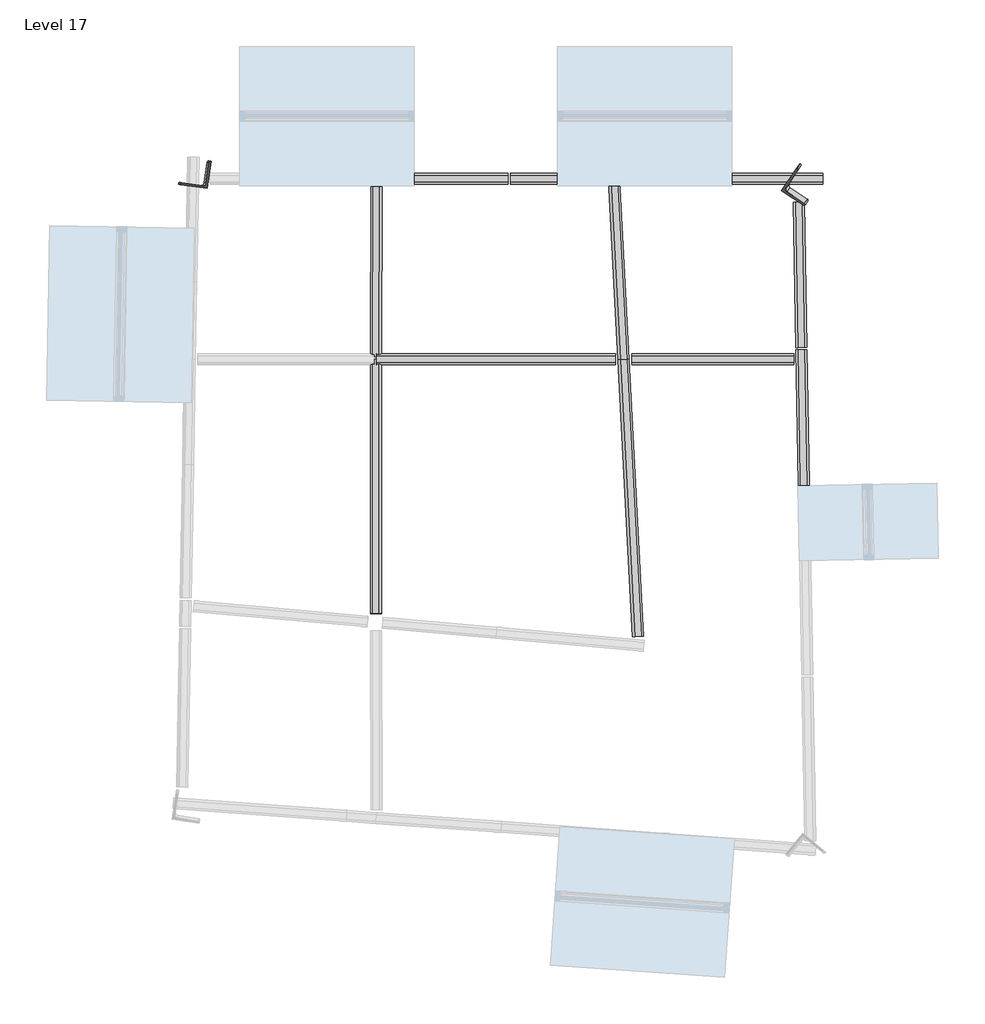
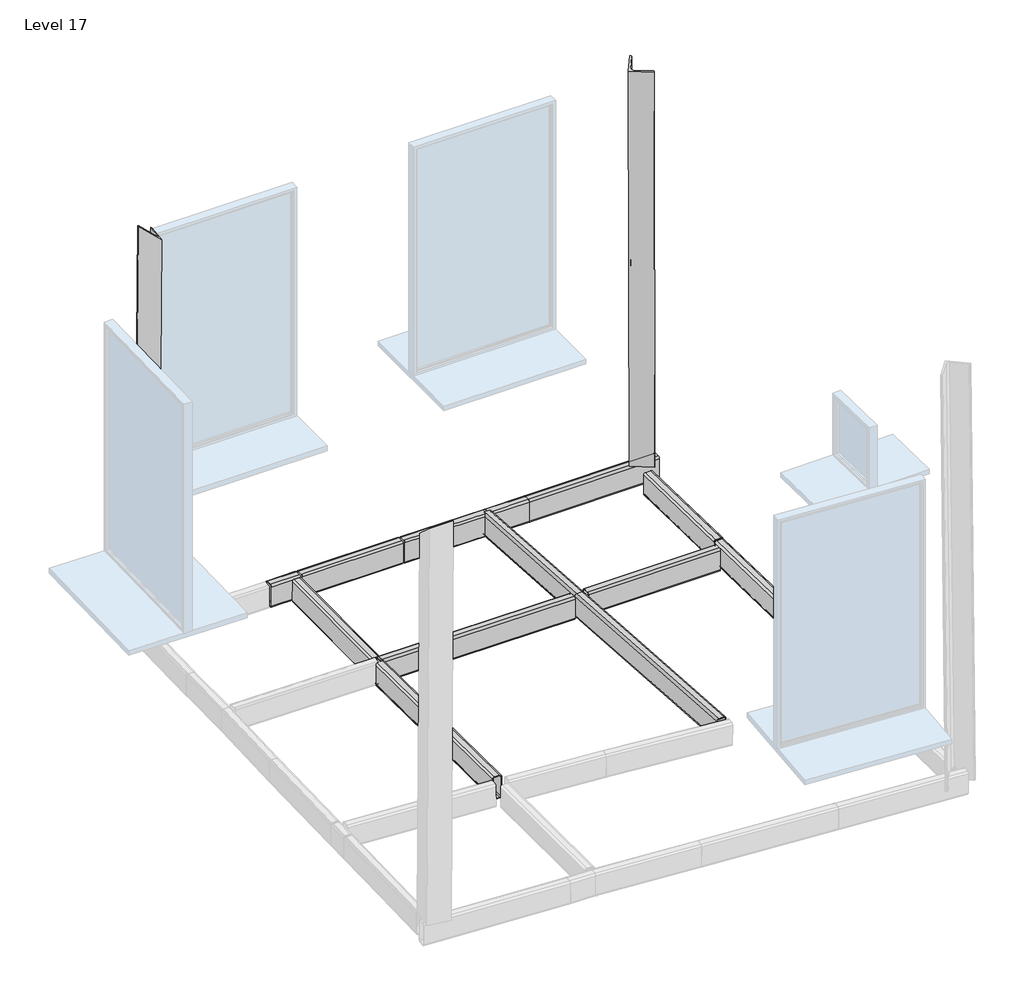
# One storey, part 3 of 3: 15 beams.
"""IFC4 building model written with IfcOpenShell, lengths in millimetres."""

from ifc_helpers import new_model, si_unit, point, frame, frame_2d, origin, place, context, project, spatial, polyline, circle_curve, ellipse_curve, trimmed, segment, composite_curve, outline, extrude, transform, mapped, element, save
from ifc_brep_helpers import plane_surface, cylinder_surface, revolved_surface, advanced_brep
from components import l120x10_4fa2ce1e, rectangular_and_square_hollow_sections_821853a5, rectangular_and_square_hollow_sections_1ebc4c57, rectangular_and_square_hollow_sections_cabbe5fd, rectangular_and_square_hollow_sections_653a560d, rectangular_and_square_hollow_sections_24a7b1d7, rectangular_and_square_hollow_sections_428dbf9e, rectangular_and_square_hollow_sections_7b8385d6, rectangular_and_square_hollow_sections_eae4e9b7, rectangular_and_square_hollow_sections_8e62f9b5, rectangular_and_square_hollow_sections_82249186

model = new_model("IFC4")

# Units and contexts
model_context = context("Model", 3, world=origin())
ifc_project = project(units=[si_unit("LENGTHUNIT", "METRE", prefix="MILLI")], contexts=[model_context])

# Site, building, storey
site = spatial("IfcSite", under=ifc_project)
building = spatial("IfcBuilding", under=site)
storey = spatial("IfcBuildingStorey", under=building, Name="Level 17", Elevation=2886.4344134)

# Beams
placement = place(None, origin())
element("IfcBeam", 1, ObjectType="L ali uguali : L120x10", at=placement, inside=storey, context=model_context, shape_type="AdvancedBrep", body=[
    advanced_brep(
    [(-719.2756179, 2153.9921318, 2953.5828211), (-867.7419634, 2175.3574195, 2954.7092037), (-867.1722064, 2179.3166337, 2954.7092037), (-858.1144871, 2186.0955801, 2954.6491299), (-745.2800646, 2169.8579613, 2953.7930792), (-727.1646261, 2183.415854, 2953.6729317), (-710.9265495, 2296.253458, 2953.6729317), (-701.8688303, 2303.0324043, 2953.612858), (-697.9097278, 2302.4626633, 2953.5828211), (-677.9048867, 2299.5838345, 5644.9888402), (-699.1466926, 2151.0954465, 5661.6828517), (-706.9802581, 2180.5111901, 5669.2320891), (-690.8364856, 2293.3623651, 5656.5446403), (-724.9776542, 2166.9363104, 5685.2333875), (-837.0653291, 2183.0664672, 5786.5551899), (-846.6304753, 2172.319337, 5795.0010128), (-681.8377875, 2300.1498049, 5648.5439911), (-846.0640271, 2176.2790273, 5794.5558391)],
    [
        (0, 1),
        (1, 2),
        (2, 3, circle_curve(frame((-859.2540013, 2178.1771517, 2954.6491299), z_axis=(-0.0074326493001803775, 0.0010696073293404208, -0.9999718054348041), x_axis=(0.14243926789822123, 0.9898035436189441, 0.0)), 8.0)),
        (3, 4),
        (4, 5, circle_curve(frame((-743.0010363, 2185.694818, 2953.7930792), z_axis=(0.0074326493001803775, -0.0010696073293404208, 0.9999718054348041), x_axis=(0.14243926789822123, 0.9898035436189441, 0.0)), 16.0)),
        (5, 6),
        (6, 7, circle_curve(frame((-703.0083445, 2295.113976, 2953.612858), z_axis=(-0.0074326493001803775, 0.0010696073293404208, -0.9999718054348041), x_axis=(0.14243926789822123, 0.9898035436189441, 0.0)), 8.0)),
        (7, 8),
        (8, 0),
        (9, 10),
        (10, 0),
        (8, 9),
        (11, 12),
        (12, 6),
        (5, 11),
        (13, 11, ellipse_curve(frame((-722.7118616, 2182.7750718, 5683.4526929), z_axis=(0.6695582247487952, -0.012288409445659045, 0.7426579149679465), x_axis=(0.7425579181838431, -0.012223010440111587, -0.669670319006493)), 21.4010545, 16.0)),
        (4, 13),
        (14, 13),
        (3, 14),
        (10, 15),
        (15, 1),
        (16, 9),
        (7, 16),
        (12, 16, ellipse_curve(frame((-682.9706839, 2292.2304243, 5649.4343384), z_axis=(-0.6695582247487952, 0.012288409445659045, -0.7426579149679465), x_axis=(-0.7425579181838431, 0.012223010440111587, 0.669670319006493)), 10.7005273, 8.0)),
        (17, 14, ellipse_curve(frame((-838.1982254, 2175.1470865, 5787.4455372), z_axis=(-0.6695582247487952, 0.012288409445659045, -0.7426579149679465), x_axis=(-0.7425579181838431, 0.012223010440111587, 0.669670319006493)), 10.7005273, 8.0)),
        (2, 17),
        (15, 17),
    ],
    [
        plane_surface(frame((-754.1858763, 2200.6403701, 2953.8922009), z_axis=(-0.0074326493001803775, 0.0010696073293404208, -0.9999718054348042), x_axis=(-0.9897756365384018, 0.1424352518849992, 0.007509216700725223))),
        plane_surface(frame((-698.7176532, 2151.0337049, 5719.4048378), z_axis=(0.9897756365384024, -0.142435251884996, -0.0075092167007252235), x_axis=(-0.0074326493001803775, 0.0010696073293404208, -0.9999718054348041))),
        plane_surface(frame((-690.3685848, 2293.2950311, 5719.4949484), z_axis=(-0.9897756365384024, 0.142435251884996, 0.0075092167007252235), x_axis=(-0.0074326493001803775, 0.0010696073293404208, -0.9999718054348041))),
        revolved_surface(polyline([(-740.7220080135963, 2201.531674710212, 2953.7930791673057), (-720.3271942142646, 2198.596726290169, 5697.665143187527)]), (-722.4430716, 2182.7363911, 5719.6150959), (-0.0074326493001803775, 0.0010696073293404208, -0.9999718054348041)),
        plane_surface(frame((-724.7220999, 2166.8995344, 5719.6150959), z_axis=(0.14243926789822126, 0.9898035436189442, 0.0), x_axis=(-0.0074326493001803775, 0.0010696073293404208, -0.9999718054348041))),
        plane_surface(frame((-847.1839987, 2172.3989926, 5720.5312203), z_axis=(-0.14243926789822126, -0.9898035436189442, 0.0), x_axis=(-0.0074326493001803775, 0.0010696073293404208, -0.9999718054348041))),
        plane_surface(frame((-677.3517631, 2299.5042364, 5719.4048378), z_axis=(0.14243926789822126, 0.9898035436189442, 0.0), x_axis=(-0.0074326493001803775, 0.0010696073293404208, -0.9999718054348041))),
        cylinder_surface(frame((-682.4503798, 2292.1555491, 5719.4348747), z_axis=(0.0074326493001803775, -0.0010696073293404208, 0.9999718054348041), x_axis=(0.14243926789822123, 0.9898035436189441, 0.0)), 8.0),
        cylinder_surface(frame((-838.6960366, 2175.2187248, 5720.4711466), z_axis=(0.0074326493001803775, -0.0010696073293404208, 0.9999718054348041), x_axis=(0.14243926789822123, 0.9898035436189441, 0.0)), 8.0),
        plane_surface(frame((-846.6142417, 2176.3582068, 5720.5312203), z_axis=(-0.9897756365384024, 0.142435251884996, 0.0075092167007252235), x_axis=(-0.0074326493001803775, 0.0010696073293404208, -0.9999718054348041))),
        plane_surface(frame((-679.6103895, 2201.052818, 5644.8961245), z_axis=(0.6695582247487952, -0.012288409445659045, 0.7426579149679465), x_axis=(0.7427595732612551, 0.011077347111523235, -0.6694665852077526))),
    ],
    [
        (0, [[1, 2, 3, 4, 5, 6, 7, 8, 9]]),
        (1, [[10, 11, -9, 12]]),
        (2, [[13, 14, -6, 15]]),
        (3, [[16, -15, -5, 17]]),
        (4, [[18, -17, -4, 19]]),
        (5, [[20, 21, -1, -11]]),
        (6, [[22, -12, -8, 23]]),
        (7, [[24, -23, -7, -14]]),
        (8, [[25, -19, -3, 26]]),
        (9, [[27, -26, -2, -21]]),
        (10, [[-10, -22, -24, -13, -16, -18, -25, -27, -20]]),
    ],
),
])
l120x10_shape = l120x10_4fa2ce1e(model_context)
element("IfcBeam", 2, ObjectType="L ali uguali : L120x10", at=placement, inside=storey, context=model_context, shape_type="MappedRepresentation", body=[
    mapped(l120x10_shape, transform((2471.2009374, 2147.8393039, 4289.4218424), x_axis=(0.013687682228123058, 0.020658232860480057, -0.9996928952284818), y_axis=(-0.8336202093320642, 0.5523380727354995, 0.0), z_axis=(0.5521684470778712, 0.8333642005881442, 0.024781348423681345))),
])
element("IfcBeam", 3, ObjectType="Rectangular and Square Hollow Sections : TREC160x60x6", at=placement, inside=storey, context=model_context, shape_type="SweptSolid", body=[
    extrude(outline(composite_curve([segment(polyline([(-29.9999172, -68.0000366), (-30.0000828, 67.9999635)]), True, "CONTINUOUS"), segment(trimmed(circle_curve(frame_2d((-18.0000828, 67.9999781)), 12.0), [point((-30.0000828, 67.9999635))], [point((-18.0000974, 79.9999781))], False, "CARTESIAN"), True, "CONTINUOUS"), segment(polyline([(-18.0000974, 79.9999781), (17.9999025, 80.0000219)]), True, "CONTINUOUS"), segment(trimmed(circle_curve(frame_2d((17.9999172, 68.0000219)), 12.0), [point((17.9999025, 80.0000219))], [point((29.9999172, 68.0000366))], False, "CARTESIAN"), True, "CONTINUOUS"), segment(polyline([(29.9999172, 68.0000366), (30.0000828, -67.9999635)]), True, "CONTINUOUS"), segment(trimmed(circle_curve(frame_2d((18.0000828, -67.9999781)), 12.0), [point((30.0000828, -67.9999635))], [point((18.0000974, -79.9999781))], False, "CARTESIAN"), True, "CONTINUOUS"), segment(polyline([(18.0000974, -79.9999781), (-17.9999025, -80.0000219)]), True, "CONTINUOUS"), segment(trimmed(circle_curve(frame_2d((-17.9999172, -68.0000219)), 12.0), [point((-17.9999025, -80.0000219))], [point((-29.9999172, -68.0000366))], False, "CARTESIAN"), True, "CONTINUOUS")], self_intersect=False), holes=[composite_curve([segment(trimmed(circle_curve(frame_2d((18.0000828, -67.9999781)), 6.0), [point((18.0000901, -73.9999781))], [point((24.0000828, -67.9999708))], True, "CARTESIAN"), True, "CONTINUOUS"), segment(polyline([(24.0000828, -67.9999708), (23.9999172, 68.0000293)]), True, "CONTINUOUS"), segment(trimmed(circle_curve(frame_2d((17.9999172, 68.0000219)), 6.0), [point((23.9999172, 68.0000293))], [point((17.9999099, 74.0000219))], True, "CARTESIAN"), True, "CONTINUOUS"), segment(polyline([(17.9999099, 74.0000219), (-18.0000901, 73.9999781)]), True, "CONTINUOUS"), segment(trimmed(circle_curve(frame_2d((-18.0000828, 67.9999781)), 6.0), [point((-18.0000901, 73.9999781))], [point((-24.0000829, 67.9999708))], True, "CARTESIAN"), True, "CONTINUOUS"), segment(polyline([(-24.0000829, 67.9999708), (-23.9999171, -68.0000293)]), True, "CONTINUOUS"), segment(trimmed(circle_curve(frame_2d((-17.9999172, -68.0000219)), 6.0), [point((-23.9999171, -68.0000293))], [point((-17.9999099, -74.0000219))], True, "CARTESIAN"), True, "CONTINUOUS"), segment(polyline([(-17.9999099, -74.0000219), (18.0000901, -73.9999781)]), True, "CONTINUOUS")], self_intersect=False)]), frame((1556.3245064, 1223.1631679, 2857.765499), z_axis=(-0.052263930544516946, 0.9986333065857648, 2.32727298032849e-05), x_axis=(0.9986333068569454, 0.05226393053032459, 1.2179889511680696e-06)), (0.0, 0.0, 1.0), 983.2987746),
])
element("IfcBeam", 4, ObjectType="Rectangular and Square Hollow Sections : TREC160x60x6", at=placement, inside=storey, context=model_context, shape_type="AdvancedBrep", body=[
    advanced_brep(
    [(940.1274838, 2175.5546419, 2928.3379178), (940.1816154, 2187.554642, 2940.3377956), (940.1815455, 2223.554642, 2940.3377956), (940.1273674, 2235.5546419, 2928.3379178), (939.5136131, 2235.5546407, 2792.3393027), (939.4594816, 2223.5546406, 2780.3394249), (939.4595514, 2187.5546406, 2780.3394249), (939.5137295, 2175.5546407, 2792.3393027), (940.1544681, 2223.5546419, 2934.3378567), (940.154538, 2187.5546419, 2934.3378567), (940.1274722, 2181.5546419, 2928.3379178), (939.5137179, 2181.5546407, 2792.3393027), (939.4866288, 2187.5546406, 2786.3393638), (939.486559, 2223.5546406, 2786.3393638), (939.5136247, 2229.5546407, 2792.3393027), (940.1273791, 2229.5546419, 2928.3379178), (1505.0640139, 2175.5557382, 2925.7883901), (1505.0911222, 2187.5557382, 2937.7883898), (1505.0911702, 2223.5557382, 2937.7883893), (1505.064094, 2235.5557382, 2925.7883892), (1504.7570489, 2235.5557376, 2789.7883899), (1504.7299407, 2223.5557375, 2777.7883902), (1504.7298926, 2187.5557375, 2777.7883907), (1504.7569688, 2175.5557376, 2789.7883908), (1505.0776241, 2223.5557382, 2931.7883893), (1505.0775761, 2187.5557382, 2931.7883899), (1505.0640219, 2181.5557382, 2925.78839), (1504.7569768, 2181.5557376, 2789.7883907), (1504.7434387, 2187.5557376, 2783.7883907), (1504.7434868, 2223.5557376, 2783.7883901), (1504.7570409, 2229.5557376, 2789.78839), (1505.064086, 2229.5557382, 2925.7883893)],
    [
        (0, 1, circle_curve(frame((940.1274606, 2187.5546419, 2928.3379178), z_axis=(-0.999989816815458, -1.9405336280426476e-06, 0.004512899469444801), x_axis=(-1.9405533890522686e-06, 0.9999999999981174, 0.0)), 12.0)),
        (1, 2),
        (2, 3, circle_curve(frame((940.1273907, 2223.5546419, 2928.3379178), z_axis=(-0.999989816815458, -1.9405336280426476e-06, 0.004512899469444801), x_axis=(-1.9405533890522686e-06, 0.9999999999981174, 0.0)), 12.0)),
        (3, 4),
        (4, 5, circle_curve(frame((939.5136364, 2223.5546407, 2792.3393027), z_axis=(-0.999989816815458, -1.9405336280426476e-06, 0.004512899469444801), x_axis=(-1.9405533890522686e-06, 0.9999999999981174, 0.0)), 12.0)),
        (5, 6),
        (6, 7, circle_curve(frame((939.5137062, 2187.5546407, 2792.3393027), z_axis=(-0.999989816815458, -1.9405336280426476e-06, 0.004512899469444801), x_axis=(-1.9405533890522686e-06, 0.9999999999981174, 0.0)), 12.0)),
        (7, 0),
        (8, 9),
        (9, 10, circle_curve(frame((940.1274606, 2187.5546419, 2928.3379178), z_axis=(0.999989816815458, 1.9405336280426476e-06, -0.004512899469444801), x_axis=(-1.9405533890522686e-06, 0.9999999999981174, 0.0)), 6.0)),
        (10, 11),
        (11, 12, circle_curve(frame((939.5137062, 2187.5546407, 2792.3393027), z_axis=(0.999989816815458, 1.9405336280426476e-06, -0.004512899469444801), x_axis=(-1.9405533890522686e-06, 0.9999999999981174, 0.0)), 6.0)),
        (12, 13),
        (13, 14, circle_curve(frame((939.5136364, 2223.5546407, 2792.3393027), z_axis=(0.999989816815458, 1.9405336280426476e-06, -0.004512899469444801), x_axis=(-1.9405533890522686e-06, 0.9999999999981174, 0.0)), 6.0)),
        (14, 15),
        (15, 8, circle_curve(frame((940.1273907, 2223.5546419, 2928.3379178), z_axis=(0.999989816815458, 1.9405336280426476e-06, -0.004512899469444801), x_axis=(-1.9405533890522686e-06, 0.9999999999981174, 0.0)), 6.0)),
        (0, 16),
        (16, 17, ellipse_curve(frame((1505.0640299, 2187.5557382, 2925.7883899), z_axis=(-0.9999974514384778, 1.3350692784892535e-06, 0.0022576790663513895), x_axis=(0.002257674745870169, -0.0014524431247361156, 0.9999963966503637)), 12.0000305, 12.0)),
        (17, 1),
        (17, 18),
        (18, 2),
        (18, 19, ellipse_curve(frame((1505.064078, 2223.5557382, 2925.7883894), z_axis=(-0.9999974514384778, 1.3350692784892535e-06, 0.0022576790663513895), x_axis=(0.002257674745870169, -0.0014524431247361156, 0.9999963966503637)), 12.0000305, 12.0)),
        (19, 3),
        (19, 20),
        (20, 4),
        (20, 21, ellipse_curve(frame((1504.7570329, 2223.5557376, 2789.7883901), z_axis=(-0.9999974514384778, 1.3350692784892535e-06, 0.0022576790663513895), x_axis=(0.002257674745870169, -0.0014524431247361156, 0.9999963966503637)), 12.0000305, 12.0)),
        (21, 5),
        (21, 22),
        (22, 6),
        (22, 23, ellipse_curve(frame((1504.7569848, 2187.5557376, 2789.7883906), z_axis=(-0.9999974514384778, 1.3350692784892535e-06, 0.0022576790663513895), x_axis=(0.002257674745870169, -0.0014524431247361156, 0.9999963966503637)), 12.0000305, 12.0)),
        (23, 7),
        (23, 16),
        (8, 24),
        (24, 25),
        (25, 9),
        (25, 26, ellipse_curve(frame((1505.0640299, 2187.5557382, 2925.7883899), z_axis=(0.9999974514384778, -1.3350692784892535e-06, -0.0022576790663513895), x_axis=(-0.002257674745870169, 0.0014524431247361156, -0.9999963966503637)), 6.0000153, 6.0)),
        (26, 10),
        (26, 27),
        (27, 11),
        (27, 28, ellipse_curve(frame((1504.7569848, 2187.5557376, 2789.7883906), z_axis=(0.9999974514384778, -1.3350692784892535e-06, -0.0022576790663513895), x_axis=(-0.002257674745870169, 0.0014524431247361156, -0.9999963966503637)), 6.0000153, 6.0)),
        (28, 12),
        (28, 29),
        (29, 13),
        (29, 30, ellipse_curve(frame((1504.7570329, 2223.5557376, 2789.7883901), z_axis=(0.9999974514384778, -1.3350692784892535e-06, -0.0022576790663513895), x_axis=(-0.002257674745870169, 0.0014524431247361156, -0.9999963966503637)), 6.0000153, 6.0)),
        (30, 14),
        (30, 31),
        (31, 15),
        (31, 24, ellipse_curve(frame((1505.064078, 2223.5557382, 2925.7883894), z_axis=(0.9999974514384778, -1.3350692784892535e-06, -0.0022576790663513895), x_axis=(-0.002257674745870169, 0.0014524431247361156, -0.9999963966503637)), 6.0000153, 6.0)),
    ],
    [
        plane_surface(frame((939.8205485, 2205.5546413, 2860.3386103), z_axis=(-0.9999898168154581, -1.9405336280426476e-06, 0.0045128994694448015), x_axis=(0.004512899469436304, 8.757522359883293e-09, 0.9999898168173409))),
        cylinder_surface(frame((940.1274606, 2187.5546419, 2928.3379178), z_axis=(-0.999989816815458, -1.9405336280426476e-06, 0.004512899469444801), x_axis=(-1.9405533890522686e-06, 0.9999999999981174, 0.0)), 12.0),
        plane_surface(frame((940.1816154, 2187.554642, 2940.3377956), z_axis=(0.004512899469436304, 8.757522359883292e-09, 0.9999898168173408), x_axis=(0.999989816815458, 1.9405336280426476e-06, -0.004512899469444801))),
        cylinder_surface(frame((940.1273907, 2223.5546419, 2928.3379178), z_axis=(-0.999989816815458, -1.9405336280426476e-06, 0.004512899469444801), x_axis=(-1.9405533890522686e-06, 0.9999999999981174, 0.0)), 12.0),
        plane_surface(frame((940.1273674, 2235.5546419, 2928.3379178), z_axis=(-1.9405533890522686e-06, 0.9999999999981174, 0.0), x_axis=(0.999989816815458, 1.9405336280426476e-06, -0.004512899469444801))),
        cylinder_surface(frame((939.5136364, 2223.5546407, 2792.3393027), z_axis=(-0.999989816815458, -1.9405336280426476e-06, 0.004512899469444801), x_axis=(-1.9405533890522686e-06, 0.9999999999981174, 0.0)), 12.0),
        plane_surface(frame((939.4594816, 2223.5546406, 2780.3394249), z_axis=(-0.004512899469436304, -8.757522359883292e-09, -0.9999898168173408), x_axis=(0.999989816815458, 1.9405336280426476e-06, -0.004512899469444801))),
        cylinder_surface(frame((939.5137062, 2187.5546407, 2792.3393027), z_axis=(-0.999989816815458, -1.9405336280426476e-06, 0.004512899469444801), x_axis=(-1.9405533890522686e-06, 0.9999999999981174, 0.0)), 12.0),
        plane_surface(frame((939.5137295, 2175.5546407, 2792.3393027), z_axis=(1.9405533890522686e-06, -0.9999999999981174, 0.0), x_axis=(0.999989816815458, 1.9405336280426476e-06, -0.004512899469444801))),
        plane_surface(frame((940.1544681, 2223.5546419, 2934.3378567), z_axis=(-0.004512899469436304, -8.757522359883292e-09, -0.9999898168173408), x_axis=(0.999989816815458, 1.9405336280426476e-06, -0.004512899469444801))),
        revolved_surface(polyline([(1505.077549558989, 2193.5557382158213, 2925.788328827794), (940.1274489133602, 2193.554641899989, 2928.3379178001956)]), (940.1274606, 2187.5546419, 2928.3379178), (0.999989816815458, 1.9405336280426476e-06, -0.004512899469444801)),
        plane_surface(frame((940.1274722, 2181.5546419, 2928.3379178), z_axis=(-1.9405533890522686e-06, 0.9999999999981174, 0.0), x_axis=(0.999989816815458, 1.9405336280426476e-06, -0.004512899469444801))),
        revolved_surface(polyline([(1504.770504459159, 2193.555737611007, 2789.788329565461), (939.5136945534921, 2193.554640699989, 2792.3393027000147)]), (939.5137062, 2187.5546407, 2792.3393027), (0.999989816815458, 1.9405336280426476e-06, -0.004512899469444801)),
        plane_surface(frame((939.4866288, 2187.5546406, 2786.3393638), z_axis=(0.004512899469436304, 8.757522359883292e-09, 0.9999898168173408), x_axis=(0.999989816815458, 1.9405336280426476e-06, -0.004512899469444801))),
        revolved_surface(polyline([(1504.770552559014, 2229.5557376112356, 2789.7883290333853), (939.5136247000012, 2229.554640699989, 2792.3393027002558)]), (939.5136364, 2223.5546407, 2792.3393027), (0.999989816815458, 1.9405336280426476e-06, -0.004512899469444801)),
        plane_surface(frame((939.5136247, 2229.5546407, 2792.3393027), z_axis=(1.9405533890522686e-06, -0.9999999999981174, 0.0), x_axis=(0.999989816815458, 1.9405336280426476e-06, -0.004512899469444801))),
        revolved_surface(polyline([(1505.0775976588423, 2229.55573821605, 2925.788328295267), (940.1273790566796, 2229.554641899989, 2928.3379178)]), (940.1273907, 2223.5546419, 2928.3379178), (0.999989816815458, 1.9405336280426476e-06, -0.004512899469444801)),
        plane_surface(frame((1505.091244, 2205.439479, 2937.8317943), z_axis=(0.9999974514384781, -1.3350692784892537e-06, -0.00225767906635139), x_axis=(0.002257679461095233, 0.0005913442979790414, 0.9999972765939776))),
    ],
    [
        (0, [[1, 2, 3, 4, 5, 6, 7, 8], [9, 10, 11, 12, 13, 14, 15, 16]]),
        (1, [[-1, 17, 18, 19]]),
        (2, [[-2, -19, 20, 21]]),
        (3, [[-3, -21, 22, 23]]),
        (4, [[-4, -23, 24, 25]]),
        (5, [[-5, -25, 26, 27]]),
        (6, [[-6, -27, 28, 29]]),
        (7, [[-7, -29, 30, 31]]),
        (8, [[-8, -31, 32, -17]]),
        (9, [[-9, 33, 34, 35]]),
        (10, [[-10, -35, 36, 37]]),
        (11, [[-11, -37, 38, 39]]),
        (12, [[-12, -39, 40, 41]]),
        (13, [[-13, -41, 42, 43]]),
        (14, [[-14, -43, 44, 45]]),
        (15, [[-15, -45, 46, 47]]),
        (16, [[-16, -47, 48, -33]]),
        (17, [[-32, -30, -28, -26, -24, -22, -20, -18], [-48, -46, -44, -42, -40, -38, -36, -34]]),
    ],
),
])
element("IfcBeam", 5, ObjectType="Rectangular and Square Hollow Sections : TREC160x60x6", at=placement, inside=storey, context=model_context, shape_type="AdvancedBrep", body=[
    advanced_brep(
    [(1505.0911222, 2187.555737, 2937.78839), (1505.0640139, 2175.5557372, 2925.78839), (1772.0075206, 2175.5545054, 2925.78839), (1771.9863042, 2187.5545055, 2937.78839), (1505.0911702, 2223.555737, 2937.78839), (1771.9863873, 2223.5545055, 2937.78839), (1505.064094, 2235.5557372, 2925.78839), (1772.0076589, 2235.5545054, 2925.78839), (1504.7570489, 2235.5557386, 2789.78839), (1772.2484243, 2235.5545043, 2789.78839), (1504.7299407, 2223.5557387, 2777.78839), (1772.2696406, 2223.5545042, 2777.78839), (1504.7298926, 2187.5557387, 2777.78839), (1772.2695576, 2187.5545042, 2777.78839), (1504.7569688, 2175.5557386, 2789.78839), (1772.2482859, 2175.5545043, 2789.78839), (1505.0775761, 2187.5557371, 2931.78839), (1505.0776241, 2223.5557371, 2931.78839), (1771.9970093, 2223.5545055, 2931.78839), (1771.9969262, 2187.5545055, 2931.78839), (1505.0640219, 2181.5557372, 2925.78839), (1772.0075344, 2181.5545054, 2925.78839), (1504.7569768, 2181.5557386, 2789.78839), (1772.2482997, 2181.5545043, 2789.78839), (1504.7434387, 2187.5557387, 2783.78839), (1772.2589356, 2187.5545043, 2783.78839), (1504.7434868, 2223.5557387, 2783.78839), (1772.2590186, 2223.5545043, 2783.78839), (1504.7570409, 2229.5557386, 2789.78839), (1772.2484104, 2229.5545043, 2789.78839), (1505.064086, 2229.5557372, 2925.78839), (1772.0076451, 2229.5545054, 2925.78839)],
    [
        (0, 1, ellipse_curve(frame((1505.0640299, 2187.5557372, 2925.78839), z_axis=(0.9999974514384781, -1.3350692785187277e-06, -0.0022576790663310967), x_axis=(-0.002257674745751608, 0.0014524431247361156, -0.9999963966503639)), 12.0000306, 12.0)),
        (1, 2),
        (2, 3, ellipse_curve(frame((1772.0075482, 2187.5545054, 2925.78839), z_axis=(-0.9999984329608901, 2.3059901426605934e-06, -0.0017703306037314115), x_axis=(-0.001770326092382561, 0.001303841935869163, 0.9999975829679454)), 12.0000188, 12.0)),
        (3, 0),
        (4, 0),
        (3, 5),
        (5, 4),
        (6, 4, ellipse_curve(frame((1505.064078, 2223.5557372, 2925.78839), z_axis=(0.9999974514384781, -1.3350692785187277e-06, -0.0022576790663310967), x_axis=(-0.002257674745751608, 0.0014524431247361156, -0.9999963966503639)), 12.0000306, 12.0)),
        (5, 7, ellipse_curve(frame((1772.0076313, 2223.5545054, 2925.78839), z_axis=(-0.9999984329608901, 2.3059901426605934e-06, -0.0017703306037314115), x_axis=(-0.001770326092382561, 0.001303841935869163, 0.9999975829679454)), 12.0000188, 12.0)),
        (7, 6),
        (8, 6),
        (7, 9),
        (9, 8),
        (10, 8, ellipse_curve(frame((1504.7570329, 2223.5557386, 2789.78839), z_axis=(0.9999974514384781, -1.3350692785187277e-06, -0.0022576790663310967), x_axis=(-0.002257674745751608, 0.0014524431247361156, -0.9999963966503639)), 12.0000306, 12.0)),
        (9, 11, ellipse_curve(frame((1772.2483966, 2223.5545043, 2789.78839), z_axis=(-0.9999984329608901, 2.3059901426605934e-06, -0.0017703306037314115), x_axis=(-0.001770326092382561, 0.001303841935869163, 0.9999975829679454)), 12.0000188, 12.0)),
        (11, 10),
        (12, 10),
        (11, 13),
        (13, 12),
        (14, 12, ellipse_curve(frame((1504.7569848, 2187.5557386, 2789.78839), z_axis=(0.9999974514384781, -1.3350692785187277e-06, -0.0022576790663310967), x_axis=(-0.002257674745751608, 0.0014524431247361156, -0.9999963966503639)), 12.0000306, 12.0)),
        (13, 15, ellipse_curve(frame((1772.2483136, 2187.5545043, 2789.78839), z_axis=(-0.9999984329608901, 2.3059901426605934e-06, -0.0017703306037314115), x_axis=(-0.001770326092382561, 0.001303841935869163, 0.9999975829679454)), 12.0000188, 12.0)),
        (15, 14),
        (1, 14),
        (15, 2),
        (16, 17),
        (17, 18),
        (18, 19),
        (19, 16),
        (20, 16, ellipse_curve(frame((1505.0640299, 2187.5557372, 2925.78839), z_axis=(-0.9999974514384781, 1.3350692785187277e-06, 0.0022576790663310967), x_axis=(0.002257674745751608, -0.0014524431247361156, 0.9999963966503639)), 6.0000153, 6.0)),
        (19, 21, ellipse_curve(frame((1772.0075482, 2187.5545054, 2925.78839), z_axis=(0.9999984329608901, -2.3059901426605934e-06, 0.0017703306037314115), x_axis=(0.001770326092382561, -0.001303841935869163, -0.9999975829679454)), 6.0000094, 6.0)),
        (21, 20),
        (22, 20),
        (21, 23),
        (23, 22),
        (24, 22, ellipse_curve(frame((1504.7569848, 2187.5557386, 2789.78839), z_axis=(-0.9999974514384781, 1.3350692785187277e-06, 0.0022576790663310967), x_axis=(0.002257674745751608, -0.0014524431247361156, 0.9999963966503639)), 6.0000153, 6.0)),
        (23, 25, ellipse_curve(frame((1772.2483136, 2187.5545043, 2789.78839), z_axis=(0.9999984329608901, -2.3059901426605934e-06, 0.0017703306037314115), x_axis=(0.001770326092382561, -0.001303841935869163, -0.9999975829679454)), 6.0000094, 6.0)),
        (25, 24),
        (26, 24),
        (25, 27),
        (27, 26),
        (28, 26, ellipse_curve(frame((1504.7570329, 2223.5557386, 2789.78839), z_axis=(-0.9999974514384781, 1.3350692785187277e-06, 0.0022576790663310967), x_axis=(0.002257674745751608, -0.0014524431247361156, 0.9999963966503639)), 6.0000153, 6.0)),
        (27, 29, ellipse_curve(frame((1772.2483966, 2223.5545043, 2789.78839), z_axis=(0.9999984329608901, -2.3059901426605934e-06, 0.0017703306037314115), x_axis=(0.001770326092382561, -0.001303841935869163, -0.9999975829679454)), 6.0000094, 6.0)),
        (29, 28),
        (30, 28),
        (29, 31),
        (31, 30),
        (17, 30, ellipse_curve(frame((1505.064078, 2223.5557372, 2925.78839), z_axis=(-0.9999974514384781, 1.3350692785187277e-06, 0.0022576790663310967), x_axis=(0.002257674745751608, -0.0014524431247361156, 0.9999963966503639)), 6.0000153, 6.0)),
        (31, 18, ellipse_curve(frame((1772.0076313, 2223.5545054, 2925.78839), z_axis=(0.9999984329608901, -2.3059901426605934e-06, 0.0017703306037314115), x_axis=(0.001770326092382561, -0.001303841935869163, -0.9999975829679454)), 6.0000094, 6.0)),
    ],
    [
        cylinder_surface(frame((1505.0191689, 2187.5557374, 2925.78839), z_axis=(-0.9999999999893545, 4.614219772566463e-06, 0.0), x_axis=(4.614219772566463e-06, 0.9999999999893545, 0.0)), 12.0),
        plane_surface(frame((1505.0191689, 2187.5557374, 2937.78839), z_axis=(0.0, 0.0, 1.0), x_axis=(0.9999999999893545, -4.614219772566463e-06, 0.0))),
        cylinder_surface(frame((1505.019335, 2223.5557374, 2925.78839), z_axis=(-0.9999999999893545, 4.614219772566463e-06, 0.0), x_axis=(4.614219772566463e-06, 0.9999999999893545, 0.0)), 12.0),
        plane_surface(frame((1505.0193903, 2235.5557374, 2925.78839), z_axis=(4.614219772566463e-06, 0.9999999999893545, 0.0), x_axis=(0.9999999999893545, -4.614219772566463e-06, 0.0))),
        cylinder_surface(frame((1505.019335, 2223.5557374, 2789.78839), z_axis=(-0.9999999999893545, 4.614219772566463e-06, 0.0), x_axis=(4.614219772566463e-06, 0.9999999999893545, 0.0)), 12.0),
        plane_surface(frame((1505.019335, 2223.5557374, 2777.78839), z_axis=(0.0, 0.0, -1.0), x_axis=(0.9999999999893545, -4.614219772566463e-06, 0.0))),
        cylinder_surface(frame((1505.0191689, 2187.5557374, 2789.78839), z_axis=(-0.9999999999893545, 4.614219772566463e-06, 0.0), x_axis=(4.614219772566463e-06, 0.9999999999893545, 0.0)), 12.0),
        plane_surface(frame((1505.0191135, 2175.5557374, 2789.78839), z_axis=(-4.614219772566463e-06, -0.9999999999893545, 0.0), x_axis=(0.9999999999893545, -4.614219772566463e-06, 0.0))),
        plane_surface(frame((1505.019335, 2223.5557374, 2931.78839), z_axis=(0.0, 0.0, -1.0), x_axis=(0.9999999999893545, -4.614219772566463e-06, 0.0))),
        revolved_surface(polyline([(1772.0181978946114, 2193.5545054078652, 2925.78839), (1505.0505114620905, 2193.5557372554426, 2925.78839)]), (1505.0191689, 2187.5557374, 2925.78839), (0.9999999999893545, -4.614219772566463e-06, 0.0)),
        plane_surface(frame((1505.0191412, 2181.5557374, 2925.78839), z_axis=(4.614219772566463e-06, 0.9999999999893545, 0.0), x_axis=(0.9999999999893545, -4.614219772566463e-06, 0.0))),
        revolved_surface(polyline([(1772.2589632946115, 2193.5545042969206, 2789.78839), (1504.7434663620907, 2193.555738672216, 2789.78839)]), (1505.0191689, 2187.5557374, 2789.78839), (0.9999999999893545, -4.614219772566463e-06, 0.0)),
        plane_surface(frame((1505.0191689, 2187.5557374, 2783.78839), z_axis=(0.0, 0.0, 1.0), x_axis=(0.9999999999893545, -4.614219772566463e-06, 0.0))),
        revolved_surface(polyline([(1772.2590462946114, 2229.554504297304, 2789.78839), (1504.7435144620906, 2229.5557386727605, 2789.78839)]), (1505.019335, 2223.5557374, 2789.78839), (0.9999999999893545, -4.614219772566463e-06, 0.0)),
        plane_surface(frame((1505.0193627, 2229.5557374, 2789.78839), z_axis=(-4.614219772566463e-06, -0.9999999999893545, 0.0), x_axis=(0.9999999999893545, -4.614219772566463e-06, 0.0))),
        revolved_surface(polyline([(1772.0182809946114, 2229.554505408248, 2925.78839), (1505.0505595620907, 2229.555737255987, 2925.78839)]), (1505.019335, 2223.5557374, 2925.78839), (0.9999999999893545, -4.614219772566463e-06, 0.0)),
        plane_surface(frame((1772.2696679, 2205.4501464, 2777.749411), z_axis=(0.9999984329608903, -2.305990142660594e-06, 0.001770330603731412), x_axis=(0.0017703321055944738, 0.0013025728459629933, -0.9999975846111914))),
        plane_surface(frame((1504.7298188, 2205.6719968, 2777.7449857), z_axis=(-0.9999974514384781, 1.3350692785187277e-06, 0.0022576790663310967), x_axis=(0.00225767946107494, 0.0005913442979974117, 0.9999972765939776))),
    ],
    [
        (0, [[1, 2, 3, 4]]),
        (1, [[5, -4, 6, 7]]),
        (2, [[8, -7, 9, 10]]),
        (3, [[11, -10, 12, 13]]),
        (4, [[14, -13, 15, 16]]),
        (5, [[17, -16, 18, 19]]),
        (6, [[20, -19, 21, 22]]),
        (7, [[23, -22, 24, -2]]),
        (8, [[25, 26, 27, 28]]),
        (9, [[29, -28, 30, 31]]),
        (10, [[32, -31, 33, 34]]),
        (11, [[35, -34, 36, 37]]),
        (12, [[38, -37, 39, 40]]),
        (13, [[41, -40, 42, 43]]),
        (14, [[44, -43, 45, 46]]),
        (15, [[47, -46, 48, -26]]),
        (16, [[-24, -21, -18, -15, -12, -9, -6, -3], [-48, -45, -42, -39, -36, -33, -30, -27]]),
        (17, [[-1, -5, -8, -11, -14, -17, -20, -23], [-25, -29, -32, -35, -38, -41, -44, -47]]),
    ],
),
])
rectangular_and_square_hollow_sections_shape = rectangular_and_square_hollow_sections_821853a5(model_context)
element("IfcBeam", 6, ObjectType="Rectangular and Square Hollow Sections : TREC160x60x6", at=placement, inside=storey, context=model_context, shape_type="MappedRepresentation", body=[
    mapped(rectangular_and_square_hollow_sections_shape, transform((2533.3505109, 835.8217009, 2860.4114885), x_axis=(0.01745240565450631, -0.9998476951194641, 1.0058106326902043e-05), y_axis=(0.9998476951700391, 0.0174524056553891, 0.0), z_axis=(-1.7553815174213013e-07, 1.0056574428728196e-05, 0.9999999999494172))),
])
rectangular_and_square_hollow_sections_2_shape = rectangular_and_square_hollow_sections_1ebc4c57(model_context)
element("IfcBeam", 7, ObjectType="Rectangular and Square Hollow Sections : TREC160x60x6", at=placement, inside=storey, context=model_context, shape_type="MappedRepresentation", body=[
    mapped(rectangular_and_square_hollow_sections_2_shape, transform((2517.5627254, 1740.3033514, 2860.40239), x_axis=(0.017452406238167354, -0.999847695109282, 1.0057551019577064e-05), y_axis=(0.9998476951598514, 0.017452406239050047, 0.0), z_axis=(-1.7552846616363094e-07, 1.0056019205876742e-05, 0.9999999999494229))),
])
rectangular_and_square_hollow_sections_3_shape = rectangular_and_square_hollow_sections_cabbe5fd(model_context)
element("IfcBeam", 8, ObjectType="Rectangular and Square Hollow Sections : TREC160x60x6", at=placement, inside=storey, context=model_context, shape_type="MappedRepresentation", body=[
    mapped(rectangular_and_square_hollow_sections_3_shape, transform((209.5175124, 1714.3461834, 2859.086571), x_axis=(-0.0028587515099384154, -0.9999923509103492, -0.002669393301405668), y_axis=(0.9999959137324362, -0.002858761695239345, 0.0), z_axis=(-7.631159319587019e-06, -0.0026693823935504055, 0.9999964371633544))),
])
rectangular_and_square_hollow_sections_4_shape = rectangular_and_square_hollow_sections_653a560d(model_context)
element("IfcBeam", 9, ObjectType="Rectangular and Square Hollow Sections : TREC160x60x6", at=placement, inside=storey, context=model_context, shape_type="MappedRepresentation", body=[
    mapped(rectangular_and_square_hollow_sections_4_shape, transform((2041.3963759, 1223.3019064, 2859.086546), x_axis=(-0.9999962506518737, -0.00028601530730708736, -0.0027233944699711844), y_axis=(0.0002860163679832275, -0.9999999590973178, 0.0), z_axis=(-0.0027233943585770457, -7.789353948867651e-07, 0.9999962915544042))),
])
rectangular_and_square_hollow_sections_5_shape = rectangular_and_square_hollow_sections_24a7b1d7(model_context)
element("IfcBeam", 10, ObjectType="Rectangular and Square Hollow Sections : TREC160x60x6", at=placement, inside=storey, context=model_context, shape_type="MappedRepresentation", body=[
    mapped(rectangular_and_square_hollow_sections_5_shape, transform((1597.1465524, 444.8837334, 2859.0816045), x_axis=(-0.052379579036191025, 0.9986258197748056, -0.0016887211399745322), y_axis=(-0.9986272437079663, -0.05237965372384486, 0.0), z_axis=(-8.845462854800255e-05, 0.0016864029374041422, 0.9999985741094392))),
])
rectangular_and_square_hollow_sections_6_shape = rectangular_and_square_hollow_sections_428dbf9e(model_context)
element("IfcBeam", 11, ObjectType="Rectangular and Square Hollow Sections : TREC160x60x6", at=placement, inside=storey, context=model_context, shape_type="MappedRepresentation", body=[
    mapped(rectangular_and_square_hollow_sections_6_shape, transform((2140.7848544, 2205.5545049, 2859.09305), x_axis=(-0.9999937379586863, 0.0, -0.0035389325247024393), y_axis=(0.0, -1.0000000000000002, 0.0), z_axis=(-0.0035389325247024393, 0.0, 0.9999937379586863))),
])
rectangular_and_square_hollow_sections_7_shape = rectangular_and_square_hollow_sections_7b8385d6(model_context)
element("IfcBeam", 12, ObjectType="Rectangular and Square Hollow Sections : TREC160x60x6", at=placement, inside=storey, context=model_context, shape_type="MappedRepresentation", body=[
    mapped(rectangular_and_square_hollow_sections_7_shape, transform((128.8664174, 2205.5359179, 2860.39771), x_axis=(-0.9999999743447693, 0.00022651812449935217, 0.0), y_axis=(-0.00022651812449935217, -0.9999999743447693, 0.0), z_axis=(0.0, 0.0, 1.0))),
])
rectangular_and_square_hollow_sections_8_shape = rectangular_and_square_hollow_sections_eae4e9b7(model_context)
element("IfcBeam", 13, ObjectType="Rectangular and Square Hollow Sections : TREC160x60x6", at=placement, inside=storey, context=model_context, shape_type="MappedRepresentation", body=[
    mapped(rectangular_and_square_hollow_sections_8_shape, transform((568.8233019, 2205.5359734, 2860.39771), x_axis=(-0.9999999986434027, -5.208833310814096e-05, 0.0), y_axis=(5.208833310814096e-05, -0.9999999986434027, 0.0), z_axis=(0.0, 0.0, 1.0))),
])
rectangular_and_square_hollow_sections_9_shape = rectangular_and_square_hollow_sections_8e62f9b5(model_context)
element("IfcBeam", 14, ObjectType="Rectangular and Square Hollow Sections : TREC160x60x6", at=placement, inside=storey, context=model_context, shape_type="MappedRepresentation", body=[
    mapped(rectangular_and_square_hollow_sections_9_shape, transform((208.1209729, 507.5816289, 2865.4342645), x_axis=(1.0630428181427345e-05, -0.9999427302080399, 0.010702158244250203), y_axis=(0.9999999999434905, 1.0631037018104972e-05, 0.0), z_axis=(-1.1377504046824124e-07, 0.01070215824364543, 0.9999427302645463))),
])
rectangular_and_square_hollow_sections_10_shape = rectangular_and_square_hollow_sections_82249186(model_context)
element("IfcBeam", 15, ObjectType="Rectangular and Square Hollow Sections : TREC160x60x6", at=placement, inside=storey, context=model_context, shape_type="MappedRepresentation", body=[
    mapped(rectangular_and_square_hollow_sections_10_shape, transform((883.8413459, 1223.1644634, 2859.2935795), x_axis=(-0.9999974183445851, 1.9264373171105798e-06, 0.002272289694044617), y_axis=(-1.9264422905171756e-06, -0.9999999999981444, 0.0), z_axis=(0.002272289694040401, -4.377434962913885e-09, 0.9999974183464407))),
])

save(model, "model.ifc")
